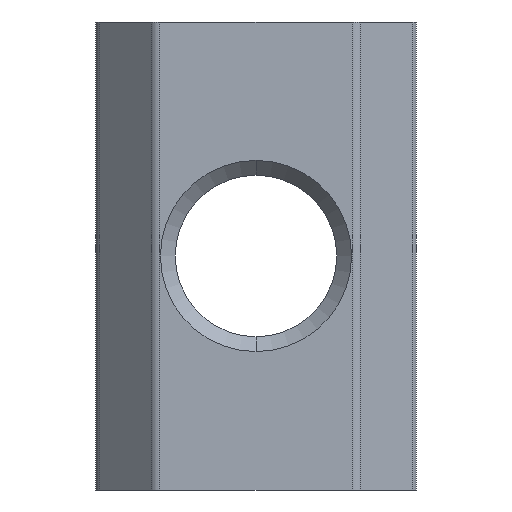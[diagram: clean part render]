
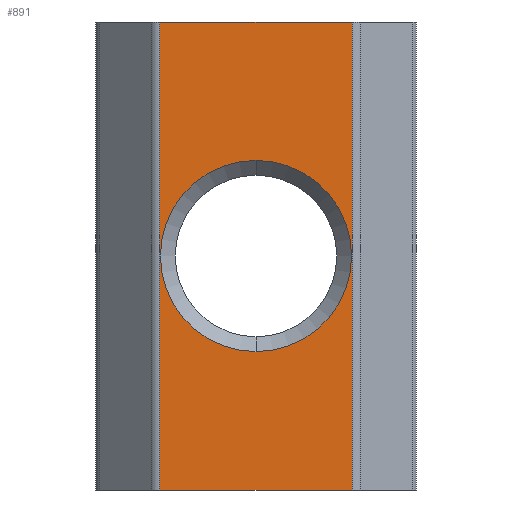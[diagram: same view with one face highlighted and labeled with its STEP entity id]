
A CAD part, front view. The second image highlights one B-rep face of the part: STEP entity #891.
In plain terms, the highlighted planar face has unit normal (0, -1, 0).
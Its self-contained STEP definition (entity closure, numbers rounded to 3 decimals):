
#19 = FACE_OUTER_BOUND ( 'NONE', #735, .T. ) ;
#36 = DIRECTION ( 'NONE',  ( 0., 0., -1. ) ) ;
#41 = LINE ( 'NONE', #1183, #748 ) ;
#47 = EDGE_CURVE ( 'NONE', #215, #316, #1077, .T. ) ;
#52 = VERTEX_POINT ( 'NONE', #679 ) ;
#121 = LINE ( 'NONE', #1049, #828 ) ;
#137 = DIRECTION ( 'NONE',  ( 0., 0., -1. ) ) ;
#140 = CARTESIAN_POINT ( 'NONE',  ( 6.75, 0., -9.85 ) ) ;
#167 = ORIENTED_EDGE ( 'NONE', *, *, #47, .F. ) ;
#185 = AXIS2_PLACEMENT_3D ( 'NONE', #1066, #1058, #137 ) ;
#187 = EDGE_CURVE ( 'NONE', #727, #1242, #579, .T. ) ;
#215 = VERTEX_POINT ( 'NONE', #1172 ) ;
#253 = FACE_BOUND ( 'NONE', #901, .T. ) ;
#258 = DIRECTION ( 'NONE',  ( -1., 0., 0. ) ) ;
#276 = CARTESIAN_POINT ( 'NONE',  ( 0., 0., -19.7 ) ) ;
#285 = ORIENTED_EDGE ( 'NONE', *, *, #1161, .T. ) ;
#286 = CARTESIAN_POINT ( 'NONE',  ( 6.75, 0., -9.85 ) ) ;
#316 = VERTEX_POINT ( 'NONE', #370 ) ;
#370 = CARTESIAN_POINT ( 'NONE',  ( 2.707, 0., -19.7 ) ) ;
#387 = EDGE_CURVE ( 'NONE', #1242, #727, #1216, .T. ) ;
#429 = VECTOR ( 'NONE', #614, 1000. ) ;
#455 = ORIENTED_EDGE ( 'NONE', *, *, #387, .T. ) ;
#482 = DIRECTION ( 'NONE',  ( 0., 1., 0. ) ) ;
#579 = CIRCLE ( 'NONE', #1294, 4.025 ) ;
#583 = DIRECTION ( 'NONE',  ( 0., 0., 1. ) ) ;
#614 = DIRECTION ( 'NONE',  ( 0., 0., 1. ) ) ;
#624 = AXIS2_PLACEMENT_3D ( 'NONE', #286, #482, #583 ) ;
#679 = CARTESIAN_POINT ( 'NONE',  ( 2.707, 0., 0. ) ) ;
#727 = VERTEX_POINT ( 'NONE', #798 ) ;
#735 = EDGE_LOOP ( 'NONE', ( #1229, #1040, #167, #285 ) ) ;
#748 = VECTOR ( 'NONE', #1073, 1000. ) ;
#798 = CARTESIAN_POINT ( 'NONE',  ( 6.75, 0., -5.825 ) ) ;
#803 = CARTESIAN_POINT ( 'NONE',  ( 10.793, 0., 0. ) ) ;
#828 = VECTOR ( 'NONE', #36, 1000. ) ;
#833 = CARTESIAN_POINT ( 'NONE',  ( 6.75, 0., -13.875 ) ) ;
#843 = EDGE_CURVE ( 'NONE', #52, #1134, #41, .T. ) ;
#891 = ADVANCED_FACE ( 'NONE', ( #253, #19 ), #1176, .T. ) ;
#901 = EDGE_LOOP ( 'NONE', ( #455, #1274 ) ) ;
#918 = EDGE_CURVE ( 'NONE', #52, #316, #121, .T. ) ;
#996 = VECTOR ( 'NONE', #258, 1000. ) ;
#1040 = ORIENTED_EDGE ( 'NONE', *, *, #918, .T. ) ;
#1049 = CARTESIAN_POINT ( 'NONE',  ( 2.707, 0., 0. ) ) ;
#1058 = DIRECTION ( 'NONE',  ( 0., -1., 0. ) ) ;
#1066 = CARTESIAN_POINT ( 'NONE',  ( 0., 0., 0. ) ) ;
#1069 = DIRECTION ( 'NONE',  ( 0., 0., 1. ) ) ;
#1073 = DIRECTION ( 'NONE',  ( 1., 0., 0. ) ) ;
#1077 = LINE ( 'NONE', #276, #996 ) ;
#1133 = CARTESIAN_POINT ( 'NONE',  ( 10.793, 0., 0. ) ) ;
#1134 = VERTEX_POINT ( 'NONE', #803 ) ;
#1161 = EDGE_CURVE ( 'NONE', #215, #1134, #1226, .T. ) ;
#1162 = DIRECTION ( 'NONE',  ( 0., 1., 0. ) ) ;
#1172 = CARTESIAN_POINT ( 'NONE',  ( 10.793, 0., -19.7 ) ) ;
#1176 = PLANE ( 'NONE',  #185 ) ;
#1183 = CARTESIAN_POINT ( 'NONE',  ( 0., 0., 0. ) ) ;
#1216 = CIRCLE ( 'NONE', #624, 4.025 ) ;
#1226 = LINE ( 'NONE', #1133, #429 ) ;
#1229 = ORIENTED_EDGE ( 'NONE', *, *, #843, .F. ) ;
#1242 = VERTEX_POINT ( 'NONE', #833 ) ;
#1274 = ORIENTED_EDGE ( 'NONE', *, *, #187, .T. ) ;
#1294 = AXIS2_PLACEMENT_3D ( 'NONE', #140, #1162, #1069 ) ;
